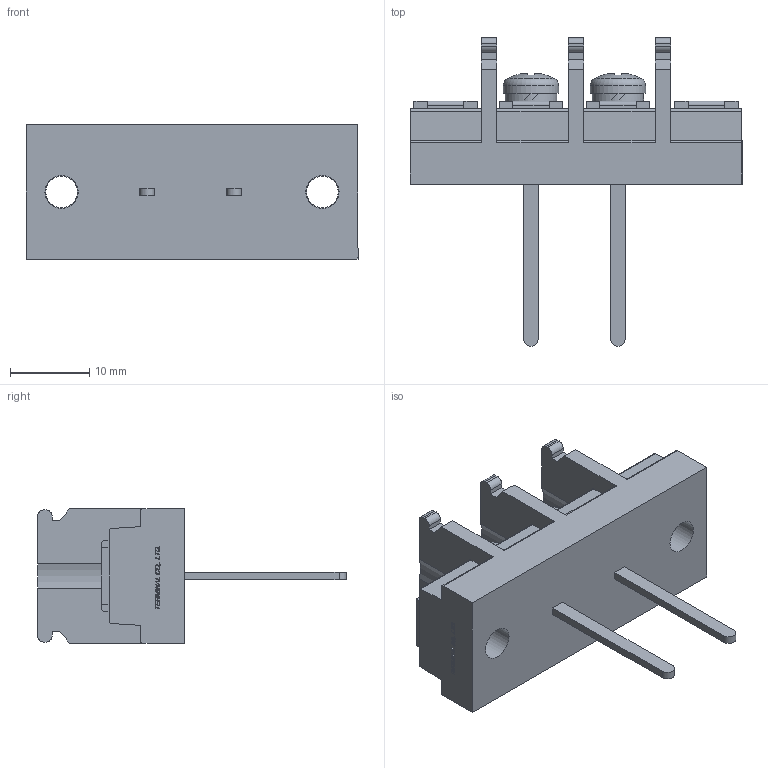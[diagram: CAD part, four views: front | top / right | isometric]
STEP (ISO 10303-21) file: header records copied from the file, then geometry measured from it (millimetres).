
FILE_DESCRIPTION(/* description */ ('Alibre Inc.'),/* implementation_level */ '2;1');
FILE_NAME(/* name */ 'export0',/* time_stamp */ '2015-10-20T07:52:05+09:00',/* author */ (''),/* organization */ (''),/* preprocessor_version */ 'ST-DEVELOPER v14',/* originating_system */ 'Alibre',/* authorisation */ '');
FILE_SCHEMA (('CONFIG_CONTROL_DESIGN'));
Length unit declared in the file: centimetre
Products named in the file (1): ID_1
Bounding box: 42 x 39 x 17 mm (x, y, z)
Volume: 7193.4 mm3; surface area: 4434.1 mm2
Topology: 1 solids, 1 shells, 594 faces, 1622 edges, 1080 vertices
Faces by surface type: plane 422, bspline 104, cylinder 54, cone 8, torus 4, sphere 2
Full cylindrical faces by diameter (mm): 4 x4, 4.2 x2, 6.5 x2, 7 x2
Entity records: 18263 total; most frequent: CARTESIAN_POINT 4254, ORIENTED_EDGE 3204, DIRECTION 2089, EDGE_CURVE 1602, VECTOR 1207, LINE 1207, VERTEX_POINT 1072, EDGE_LOOP 664
